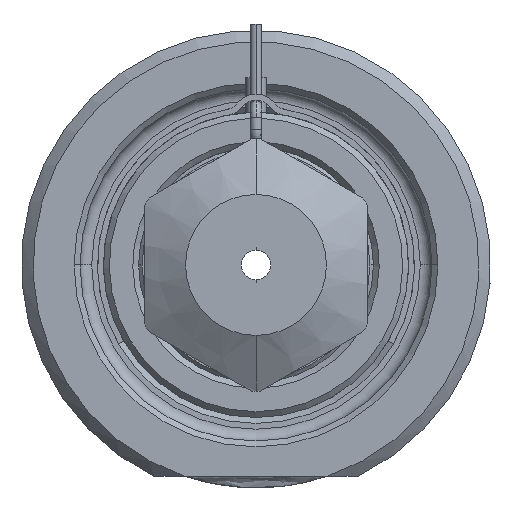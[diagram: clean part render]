
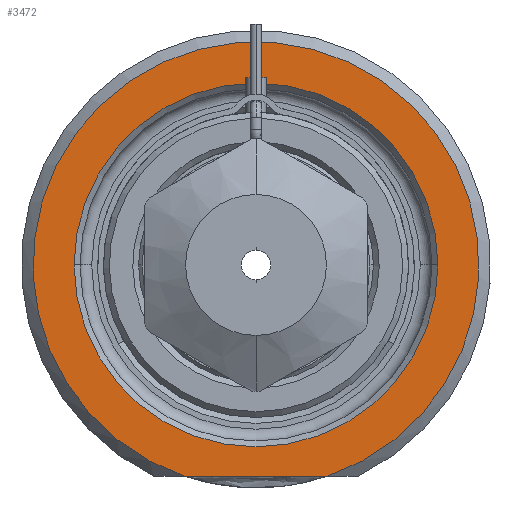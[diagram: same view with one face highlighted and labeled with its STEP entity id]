
A CAD part, front view. The second image highlights one B-rep face of the part: STEP entity #3472.
In plain terms, the highlighted planar face has unit normal (0, -1, 0).
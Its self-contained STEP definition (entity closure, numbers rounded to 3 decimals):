
#1=DIRECTION('',(1.,0.,0.));
#2=VECTOR('',#1,12.166);
#3=CARTESIAN_POINT('',(-6.083,0.,-18.));
#4=LINE('',#3,#2);
#5=CARTESIAN_POINT('',(0.,0.,0.));
#6=DIRECTION('',(0.,1.,0.));
#7=DIRECTION('',(-1.,0.,0.));
#8=AXIS2_PLACEMENT_3D('',#5,#6,#7);
#10=CARTESIAN_POINT('',(0.,0.,0.));
#11=DIRECTION('',(0.,1.,0.));
#12=DIRECTION('',(1.,0.,0.));
#13=AXIS2_PLACEMENT_3D('',#10,#11,#12);
#264=CARTESIAN_POINT('',(0.,0.,0.));
#265=DIRECTION('',(0.,-1.,0.));
#266=DIRECTION('',(0.32,0.,-0.947));
#267=AXIS2_PLACEMENT_3D('',#264,#265,#266);
#2916=CARTESIAN_POINT('',(-15.5,0.,0.));
#2917=CARTESIAN_POINT('',(15.5,0.,0.));
#2918=VERTEX_POINT('',#2916);
#2919=VERTEX_POINT('',#2917);
#2974=CARTESIAN_POINT('',(-6.083,0.,-18.));
#2975=CARTESIAN_POINT('',(6.083,0.,-18.));
#2976=VERTEX_POINT('',#2974);
#2977=VERTEX_POINT('',#2975);
#3455=CARTESIAN_POINT('',(0.,0.,0.));
#3456=DIRECTION('',(0.,-1.,0.));
#3457=DIRECTION('',(1.,0.,0.));
#3458=AXIS2_PLACEMENT_3D('',#3455,#3456,#3457);
#3459=PLANE('',#3458);
#3461=ORIENTED_EDGE('',*,*,#3460,.F.);
#3463=ORIENTED_EDGE('',*,*,#3462,.F.);
#3464=EDGE_LOOP('',(#3461,#3463));
#3465=FACE_OUTER_BOUND('',#3464,.F.);
#3467=ORIENTED_EDGE('',*,*,#3466,.F.);
#3469=ORIENTED_EDGE('',*,*,#3468,.F.);
#3470=EDGE_LOOP('',(#3467,#3469));
#3471=FACE_BOUND('',#3470,.F.);
#3472=ADVANCED_FACE('',(#3465,#3471),#3459,.T.);
#9=CIRCLE('',#8,15.5);
#14=CIRCLE('',#13,15.5);
#268=CIRCLE('',#267,19.);
#3460=EDGE_CURVE('',#2976,#2977,#4,.T.);
#3462=EDGE_CURVE('',#2977,#2976,#268,.T.);
#3466=EDGE_CURVE('',#2918,#2919,#9,.T.);
#3468=EDGE_CURVE('',#2919,#2918,#14,.T.);
